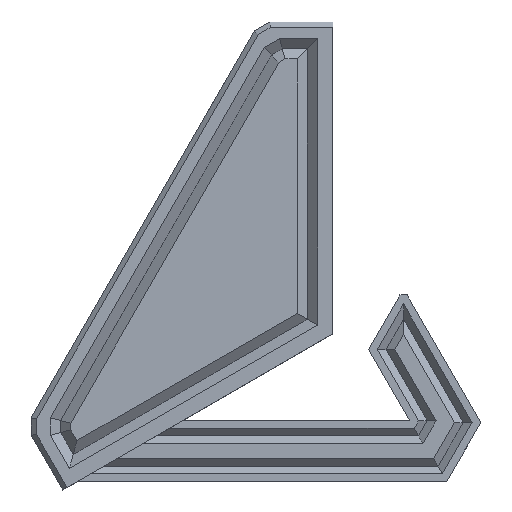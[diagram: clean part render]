
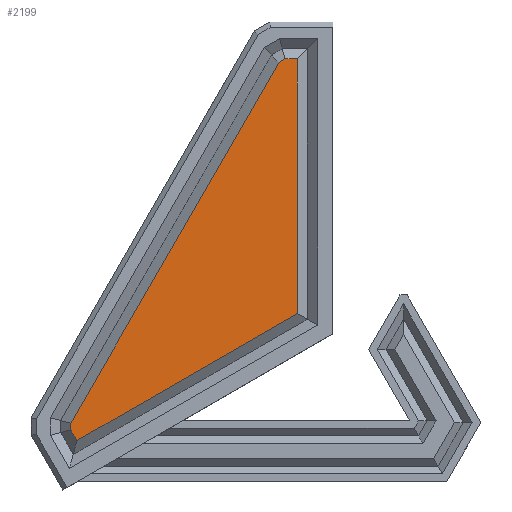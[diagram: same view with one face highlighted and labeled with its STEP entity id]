
A CAD part, top view. The second image highlights one B-rep face of the part: STEP entity #2199.
In plain terms, the highlighted planar face has unit normal (0, 0, 1).
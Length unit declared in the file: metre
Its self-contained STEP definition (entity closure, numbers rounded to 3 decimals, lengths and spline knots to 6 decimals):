
#315=ORIENTED_EDGE('',*,*,#812,.T.);
#316=ORIENTED_EDGE('',*,*,#813,.T.);
#317=ORIENTED_EDGE('',*,*,#814,.T.);
#318=ORIENTED_EDGE('',*,*,#815,.T.);
#319=ORIENTED_EDGE('',*,*,#816,.T.);
#320=ORIENTED_EDGE('',*,*,#817,.T.);
#321=ORIENTED_EDGE('',*,*,#818,.T.);
#812=EDGE_CURVE('',#1062,#1063,#1308,.T.);
#813=EDGE_CURVE('',#1063,#1064,#1309,.T.);
#814=EDGE_CURVE('',#1064,#1065,#1310,.T.);
#815=EDGE_CURVE('',#1065,#1066,#1311,.T.);
#816=EDGE_CURVE('',#1066,#1067,#1312,.T.);
#817=EDGE_CURVE('',#1067,#1068,#1313,.T.);
#818=EDGE_CURVE('',#1068,#1062,#1314,.T.);
#1062=VERTEX_POINT('',#3343);
#1063=VERTEX_POINT('',#3344);
#1064=VERTEX_POINT('',#3346);
#1065=VERTEX_POINT('',#3348);
#1066=VERTEX_POINT('',#3350);
#1067=VERTEX_POINT('',#3352);
#1068=VERTEX_POINT('',#3354);
#1308=LINE('',#3342,#1618);
#1309=LINE('',#3345,#1619);
#1310=LINE('',#3347,#1620);
#1311=LINE('',#3349,#1621);
#1312=LINE('',#3351,#1622);
#1313=LINE('',#3353,#1623);
#1314=LINE('',#3355,#1624);
#1618=VECTOR('',#2712,1.);
#1619=VECTOR('',#2713,1.);
#1620=VECTOR('',#2714,1.);
#1621=VECTOR('',#2715,1.);
#1622=VECTOR('',#2716,1.);
#1623=VECTOR('',#2717,1.);
#1624=VECTOR('',#2718,1.);
#1808=EDGE_LOOP('',(#315,#316,#317,#318,#319,#320,#321));
#1940=FACE_BOUND('',#1808,.T.);
#2070=PLANE('',#2341);
#2199=ADVANCED_FACE('',(#1940),#2070,.T.);
#2341=AXIS2_PLACEMENT_3D('',#3341,#2710,#2711);
#2710=DIRECTION('',(0.,0.,1.));
#2711=DIRECTION('',(1.,0.,0.));
#2712=DIRECTION('',(0.,-1.,0.));
#2713=DIRECTION('',(0.5,-0.866,0.));
#2714=DIRECTION('',(0.866,0.5,0.));
#2715=DIRECTION('',(0.,1.,0.));
#2716=DIRECTION('',(-1.,0.,0.));
#2717=DIRECTION('',(-0.866,-0.5,0.));
#2718=DIRECTION('',(-0.5,-0.866,0.));
#3341=CARTESIAN_POINT('',(-0.001519,0.015576,0.0053));
#3342=CARTESIAN_POINT('',(-0.025877,-0.009749,0.0053));
#3343=CARTESIAN_POINT('',(-0.025877,-0.008821,0.0053));
#3344=CARTESIAN_POINT('',(-0.025877,-0.009481,0.0053));
#3345=CARTESIAN_POINT('',(-0.024763,-0.01141,0.0053));
#3346=CARTESIAN_POINT('',(-0.025263,-0.010544,0.0053));
#3347=CARTESIAN_POINT('',(-0.003,0.002309,0.0053));
#3348=CARTESIAN_POINT('',(-0.0035,0.002021,0.0053));
#3349=CARTESIAN_POINT('',(-0.0035,0.028151,0.0053));
#3350=CARTESIAN_POINT('',(-0.0035,0.027151,0.0053));
#3351=CARTESIAN_POINT('',(-0.004996,0.027151,0.0053));
#3352=CARTESIAN_POINT('',(-0.004728,0.027151,0.0053));
#3353=CARTESIAN_POINT('',(-0.005532,0.026687,0.0053));
#3354=CARTESIAN_POINT('',(-0.0053,0.026821,0.0053));
#3355=CARTESIAN_POINT('',(-0.026011,-0.009053,0.0053));
